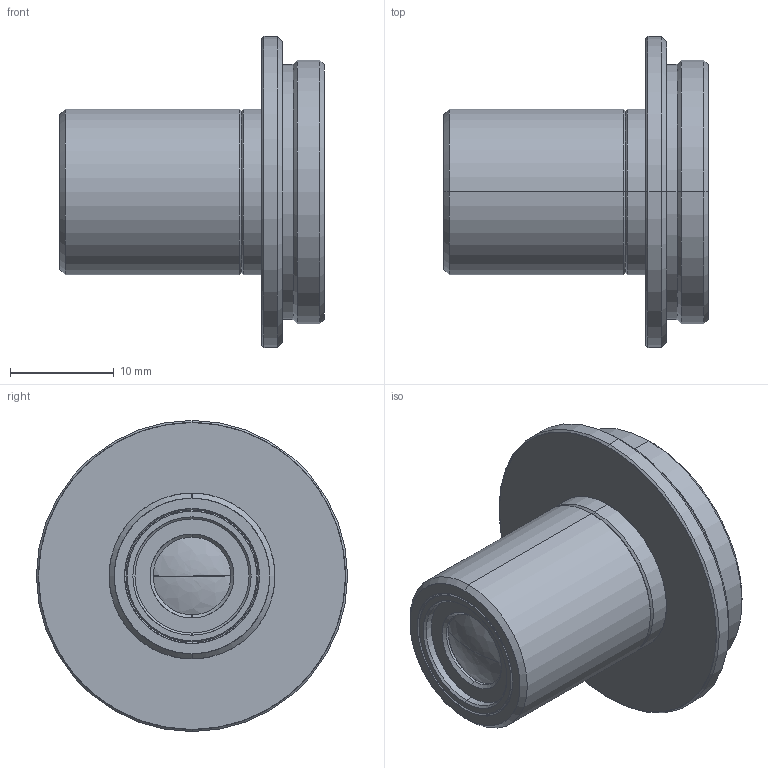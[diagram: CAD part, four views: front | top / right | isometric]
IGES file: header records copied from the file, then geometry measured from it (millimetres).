
Start section: SolidWorks IGES file using analytic representation for surfaces
Global section: file name: \\192.168.1.203\Development\01 マクロレンズ\02 VS-MC series\03 ノンテレマクロ\010 VS-MC01-330\3D\MC01-330.IGS; native system: SolidWorks 2012; preprocessor: SolidWorks 2012; author: a-3DCAD2; date: 120601.170604; units: millimetre
Bounding box: 25.48 x 30 x 30 mm (x, y, z)
Surface area: 3617.9 mm2 (no closed solid volume)
Topology: 0 solids, 0 shells, 72 faces, 960 edges, 958 vertices
Faces by surface type: revolution 62, bspline 10
